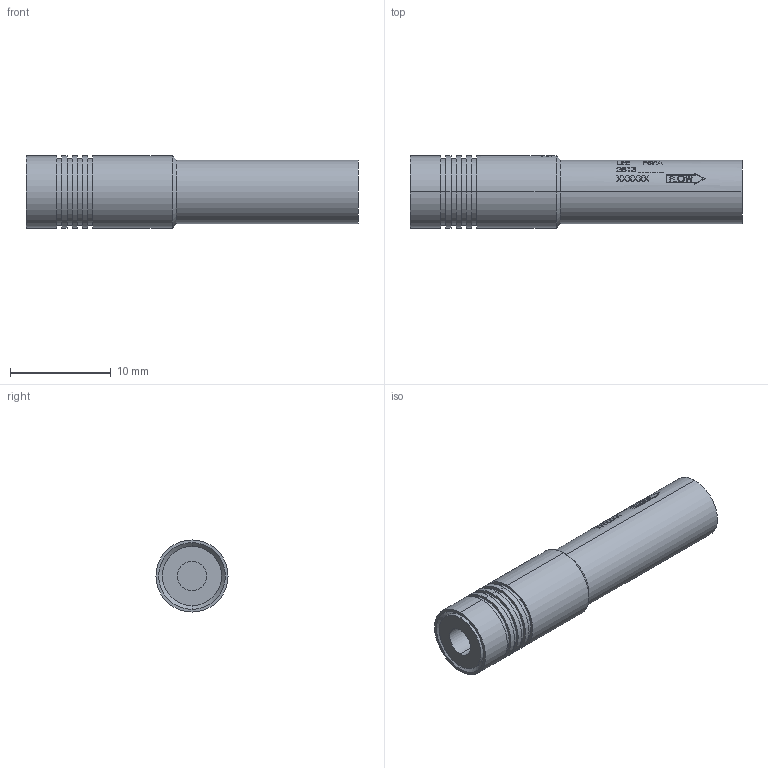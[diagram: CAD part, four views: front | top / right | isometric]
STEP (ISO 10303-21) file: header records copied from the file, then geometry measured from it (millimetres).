
FILE_DESCRIPTION (( 'STEP AP214' ), '1' );
FILE_NAME ('3DPSFA2813----.STEP', '2021-04-01T17:40:39', ( '' ), ( '' ), 'SwSTEP 2.0', 'SolidWorks 2019', '' );
FILE_SCHEMA (( 'AUTOMOTIVE_DESIGN' ));
Length unit declared in the file: inch
Products named in the file (1): 3DPSFA2813----
Bounding box: 32.89 x 7.14 x 7.14 mm (x, y, z)
Volume: 1097.2 mm3; surface area: 887.4 mm2
Topology: 1 solids, 1 shells, 371 faces, 969 edges, 644 vertices
Faces by surface type: plane 155, bspline 154, cylinder 58, cone 4
Entity records: 18529 total; most frequent: CARTESIAN_POINT 6456, ORIENTED_EDGE 1938, DIRECTION 1039, EDGE_CURVE 969, VERTEX_POINT 644, B_SPLINE_CURVE_WITH_KNOTS 514, EDGE_LOOP 415, FACE_OUTER_BOUND 371
